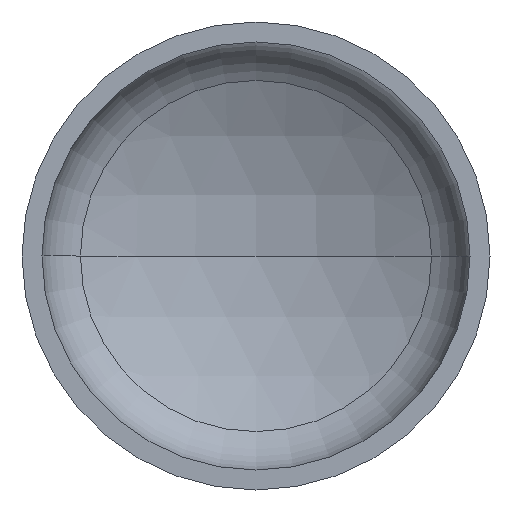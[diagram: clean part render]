
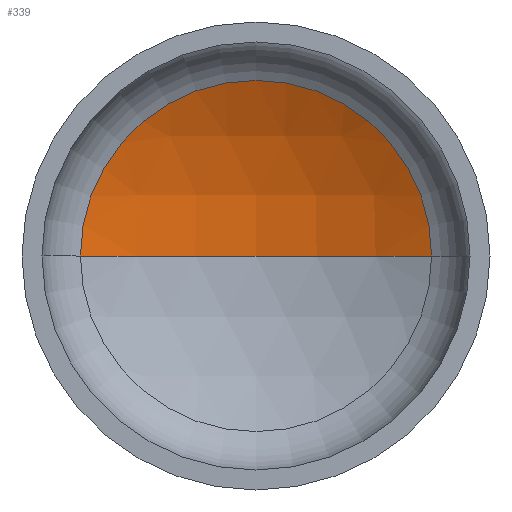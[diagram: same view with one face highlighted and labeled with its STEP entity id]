
A CAD part, front view. The second image highlights one B-rep face of the part: STEP entity #339.
In plain terms, the highlighted spherical face has radius 880 mm.
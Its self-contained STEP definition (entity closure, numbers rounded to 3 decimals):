
#16 = AXIS2_PLACEMENT_3D ( 'NONE', #138, #149, #153 ) ;
#17 = AXIS2_PLACEMENT_3D ( 'NONE', #379, #191, #407 ) ;
#19 = EDGE_LOOP ( 'NONE', ( #39, #57, #50 ) ) ;
#25 = DIRECTION ( 'NONE',  ( -1., 0., 0. ) ) ;
#27 = AXIS2_PLACEMENT_3D ( 'NONE', #166, #381, #250 ) ;
#29 = AXIS2_PLACEMENT_3D ( 'NONE', #182, #43, #25 ) ;
#39 = ORIENTED_EDGE ( 'NONE', *, *, #350, .F. ) ;
#43 = DIRECTION ( 'NONE',  ( 0., 0., -1. ) ) ;
#48 = VERTEX_POINT ( 'NONE', #292 ) ;
#50 = ORIENTED_EDGE ( 'NONE', *, *, #365, .T. ) ;
#57 = ORIENTED_EDGE ( 'NONE', *, *, #367, .T. ) ;
#103 = VERTEX_POINT ( 'NONE', #318 ) ;
#138 = CARTESIAN_POINT ( 'NONE',  ( 0., -477.065, 0. ) ) ;
#142 = CIRCLE ( 'NONE', #17, 412.732 ) ;
#149 = DIRECTION ( 'NONE',  ( 0., 0., -1. ) ) ;
#153 = DIRECTION ( 'NONE',  ( -1., 0., 0. ) ) ;
#166 = CARTESIAN_POINT ( 'NONE',  ( 0., -477.065, 0. ) ) ;
#182 = CARTESIAN_POINT ( 'NONE',  ( 0., -477.065, 0. ) ) ;
#191 = DIRECTION ( 'NONE',  ( 0., -1., 0. ) ) ;
#250 = DIRECTION ( 'NONE',  ( 1., 0., 0. ) ) ;
#268 = CIRCLE ( 'NONE', #16, 880. ) ;
#292 = CARTESIAN_POINT ( 'NONE',  ( 412.732, 300.142, 0. ) ) ;
#318 = CARTESIAN_POINT ( 'NONE',  ( -412.732, 300.142, 0. ) ) ;
#334 = SPHERICAL_SURFACE ( 'NONE', #29, 880. ) ;
#339 = ADVANCED_FACE ( 'NONE', ( #347 ), #334, .F. ) ;
#347 = FACE_OUTER_BOUND ( 'NONE', #19, .T. ) ;
#350 = EDGE_CURVE ( 'NONE', #402, #103, #393, .T. ) ;
#365 = EDGE_CURVE ( 'NONE', #48, #103, #142, .T. ) ;
#367 = EDGE_CURVE ( 'NONE', #402, #48, #268, .T. ) ;
#379 = CARTESIAN_POINT ( 'NONE',  ( 0., 300.142, 0. ) ) ;
#381 = DIRECTION ( 'NONE',  ( 0., 0., 1. ) ) ;
#393 = CIRCLE ( 'NONE', #27, 880. ) ;
#402 = VERTEX_POINT ( 'NONE', #404 ) ;
#404 = CARTESIAN_POINT ( 'NONE',  ( 0., 402.935, 0. ) ) ;
#407 = DIRECTION ( 'NONE',  ( 1., 0., 0. ) ) ;
